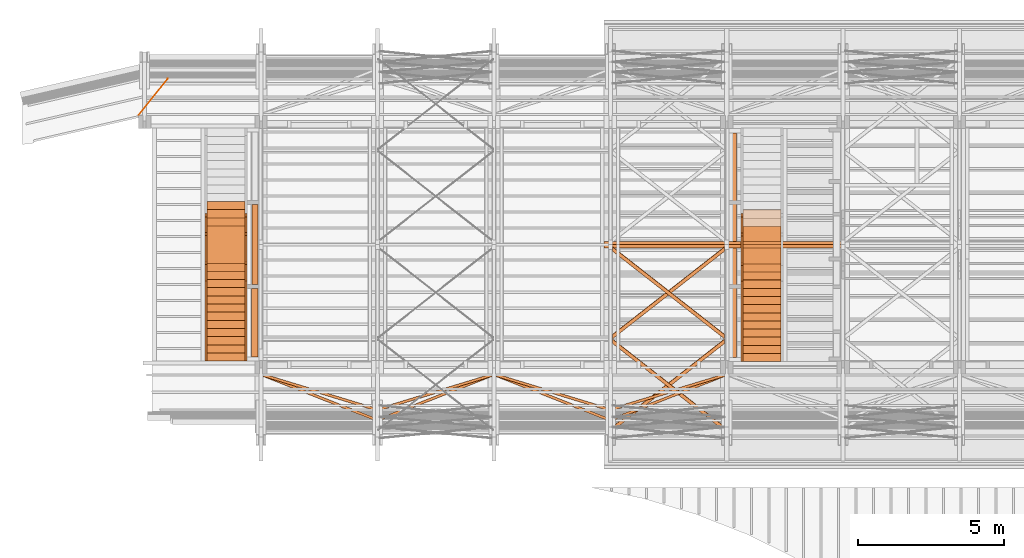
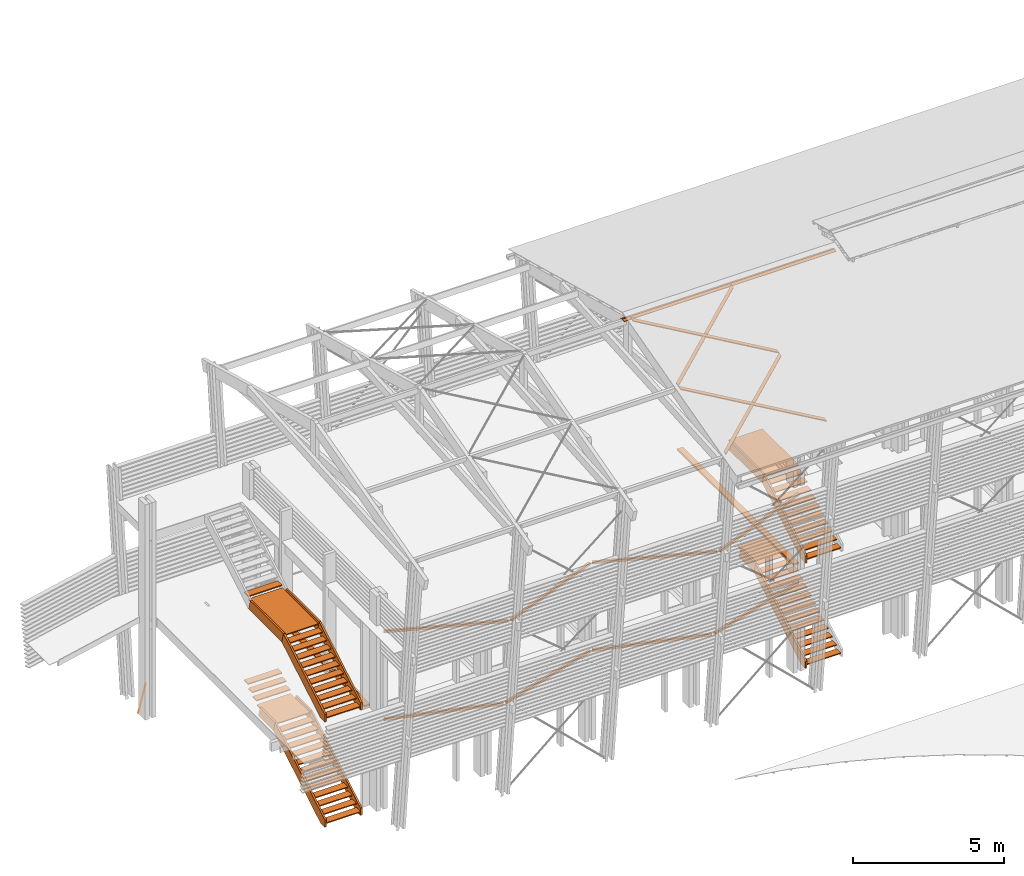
# One storey, part 34 of 48: 82 proxies.
"""IFC2X3 building model written with IfcOpenShell, lengths in metres."""

from ifc_helpers import new_model, entity, si_unit, direction, frame, origin_with_axes, place, context, subcontext, project, spatial, faceted_brep, material, element, save


model = new_model("IFC2X3")

# Units and contexts
model_context = context("Model", 3, precision=1e-06, world=origin_with_axes(), true_north=direction((0.0, 1.0, 0.0)))
body_context = subcontext(model_context, "Body", "Model", "MODEL_VIEW")
ifc_project = project(units=[si_unit("LENGTHUNIT", "METRE"), si_unit("AREAUNIT", "SQUARE_METRE"), si_unit("VOLUMEUNIT", "CUBIC_METRE"), si_unit("PLANEANGLEUNIT", "RADIAN")], contexts=[model_context])

# Site, building, storey
site_placement = place(None, origin_with_axes())
site = spatial("IfcSite", under=ifc_project, at=site_placement, CompositionType="ELEMENT")
building_placement = place(site_placement, origin_with_axes())
building = spatial("IfcBuilding", under=site, at=building_placement, Name="Building 1", CompositionType="ELEMENT")
storey_placement = place(building_placement, origin_with_axes())
storey = spatial("IfcBuildingStorey", under=building, at=storey_placement, Name="Storey 1", CompositionType="ELEMENT", Elevation=0.0)

# Proxies
ifc_material_1 = material(Name="C24")
proxy_1_placement = place(storey_placement, frame((21.2797437, -184.7664881, 0.3), z_axis=(0.0, 0.0, 1.0), x_axis=(1.0, 0.0, 0.0)))
element("IfcBuildingElementProxy", 1, at=proxy_1_placement, inside=storey, material=ifc_material_1, context=body_context, shape_type="GeometricSet", body=[
    entity("IfcCompositeCurve", [entity("IfcCompositeCurveSegment", "DISCONTINUOUS", True, entity("IfcTrimmedCurve", entity("IfcLine", entity("IfcCartesianPoint", [0.0, 0.0, 0.0]), entity("IfcVector", entity("IfcDirection", [0.6252563, 0.7784092, 0.0559788]), 1.0)), [entity("IfcParameterValue", 0.0)], [entity("IfcParameterValue", 1.6077508)], True, "PARAMETER"))], False),
])
ifc_material_2 = material(Name="Moabi")
for number, where, z_axis, x_axis, name in (
    (2, (24.9297437, -191.1096515, 5.57), (0.0, 1.0, 0.0), (-1.0, 0.0, 0.0), "marche"),
    (3, (24.9297437, -192.7896515, 0.31), (0.0, 1.0, 0.0), (-1.0, 0.0, 0.0), "marche"),
):
    element("IfcBuildingElementProxy", number, at=place(storey_placement, frame(where, z_axis=z_axis, x_axis=x_axis)), inside=storey, material=ifc_material_2, Name=name, context=body_context, shape_type="Brep", body=[
        faceted_brep([(0.0, 0.02, 0.14), (0.0, 0.02, -0.14), (0.0, -0.02, -0.14), (0.0, -0.02, 0.14), (1.3, 0.02, -0.14), (1.3, -0.02, -0.14), (1.3, 0.02, 0.14), (1.3, -0.02, 0.14)], [[[0, 1, 2, 3]], [[1, 4, 5, 2]], [[4, 6, 7, 5]], [[6, 0, 3, 7]], [[1, 0, 6, 4]], [[7, 3, 2, 5]]]),
    ])
ifc_material_3 = material(Name="tôle")
proxy_2_placement = place(storey_placement, frame((37.2797441, -189.2646997, 13.3540738), z_axis=(0.0, -0.258819, 0.9659258), x_axis=(1.0, 0.0, 0.0)))
element("IfcBuildingElementProxy", 4, at=proxy_2_placement, inside=storey, material=ifc_material_3, Name="Couverture", context=body_context, shape_type="Brep", body=[
    faceted_brep([(8.1499996, -0.05635, 0.0085), (0.0, -0.05635, 0.0085), (0.0, -0.0609051, -0.0085), (8.1499996, -0.0609051, -0.0085), (0.0, 0.0609051, 0.0085), (0.0, 0.05635, -0.0085), (8.1499996, 0.0609051, 0.0085), (8.1499996, 0.05635, -0.0085)], [[[0, 1, 2, 3]], [[1, 4, 5, 2]], [[4, 6, 7, 5]], [[6, 0, 3, 7]], [[1, 0, 6, 4]], [[7, 3, 2, 5]]]),
])
proxy_3_placement = place(storey_placement, frame((45.4297437, -189.1514399, 13.3540738), z_axis=(0.0, 0.258819, 0.9659258), x_axis=(-1.0, 0.0, 0.0)))
element("IfcBuildingElementProxy", 5, at=proxy_3_placement, inside=storey, material=ifc_material_3, Name="Couverture", context=body_context, shape_type="Brep", body=[
    faceted_brep([(0.0, 0.0609051, 0.0085), (8.1499996, 0.0609051, 0.0085), (8.1499996, 0.05635, -0.0085), (0.0, 0.05635, -0.0085), (8.1499996, -0.05635, 0.0085), (8.1499996, -0.0609051, -0.0085), (0.0, -0.05635, 0.0085), (0.0, -0.0609051, -0.0085)], [[[0, 1, 2, 3]], [[1, 4, 5, 2]], [[4, 6, 7, 5]], [[6, 0, 3, 7]], [[1, 0, 6, 4]], [[7, 3, 2, 5]]]),
])
for number, where, z_axis, x_axis, name in (
    (6, (24.9297437, -193.0696515, 4.415), (0.0, 1.0, 0.0), (-1.0, 0.0, 0.0), "marche"),
    (7, (43.3497437, -192.2496511, 4.91), (0.0, 1.0, 0.0), (-1.0, 0.0, 0.0), "marche"),
    (8, (43.3497437, -191.6896511, 0.97), (0.0, 1.0, 0.0), (-1.0, 0.0, 0.0), "marche"),
):
    element("IfcBuildingElementProxy", number, at=place(storey_placement, frame(where, z_axis=z_axis, x_axis=x_axis)), inside=storey, material=ifc_material_2, Name=name, context=body_context, shape_type="Brep", body=[
        faceted_brep([(0.0, 0.02, 0.14), (0.0, 0.02, -0.14), (0.0, -0.02, -0.14), (0.0, -0.02, 0.14), (1.3, 0.02, -0.14), (1.3, -0.02, -0.14), (1.3, 0.02, 0.14), (1.3, -0.02, 0.14)], [[[0, 1, 2, 3]], [[1, 4, 5, 2]], [[4, 6, 7, 5]], [[6, 0, 3, 7]], [[1, 0, 6, 4]], [[7, 3, 2, 5]]]),
    ])
ifc_material_4 = material(Name="GL28h")
proxy_4_placement = place(storey_placement, frame((42.0147437, -188.8077002, 2.045), z_axis=(0.0, 0.0, 1.0), x_axis=(0.0, -1.0, 0.0)))
element("IfcBuildingElementProxy", 9, at=proxy_4_placement, inside=storey, material=ifc_material_4, Name="limon", context=body_context, shape_type="Brep", body=[
    faceted_brep([(0.0, -0.035, -0.2), (0.1090909, -0.035, 0.2), (0.1090909, 0.035, 0.2), (0.0, 0.035, -0.2), (1.1122539, -0.035, 0.2), (1.1122539, 0.035, 0.2), (1.003163, -0.035, -0.2), (1.003163, 0.035, -0.2)], [[[0, 1, 2, 3]], [[2, 1, 4, 5]], [[1, 0, 6, 4]], [[5, 4, 6, 7]], [[0, 3, 7, 6]], [[3, 2, 5, 7]]]),
])
proxy_5_placement = place(storey_placement, frame((42.0147437, -188.1428517, 5.985), z_axis=(0.0, 0.0, 1.0), x_axis=(0.0, -1.0, 0.0)))
element("IfcBuildingElementProxy", 10, at=proxy_5_placement, inside=storey, material=ifc_material_4, Name="limon", context=body_context, shape_type="Brep", body=[
    faceted_brep([(0.0, -0.035, -0.2), (0.1090909, -0.035, 0.2), (0.1090909, 0.035, 0.2), (0.0, 0.035, -0.2), (2.3171028, -0.035, 0.2), (2.3171028, 0.035, 0.2), (2.2080118, -0.035, -0.2), (2.2080118, 0.035, -0.2)], [[[0, 1, 2, 3]], [[2, 1, 4, 5]], [[1, 0, 6, 4]], [[0, 3, 7, 6]], [[3, 2, 5, 7]], [[5, 4, 6, 7]]]),
])
proxy_6_placement = place(storey_placement, frame((24.2797437, -187.8664881, 6.16), z_axis=(0.0, 1.0, 0.0), x_axis=(0.0, 0.0, 1.0)))
element("IfcBuildingElementProxy", 11, at=proxy_6_placement, inside=storey, material=ifc_material_2, Name="marche", context=body_context, shape_type="Brep", body=[
    faceted_brep([(0.04, 0.65, 0.14), (0.04, 0.65, -0.14), (0.0, 0.65, -0.14), (0.0, 0.65, 0.14), (0.04, -0.65, -0.14), (0.0, -0.65, -0.14), (0.04, -0.65, 0.14), (0.0, -0.65, 0.14)], [[[0, 1, 2, 3]], [[1, 4, 5, 2]], [[4, 6, 7, 5]], [[6, 0, 3, 7]], [[1, 0, 6, 4]], [[7, 3, 2, 5]]]),
])
proxy_7_placement = place(storey_placement, frame((42.0497437, -189.2080698, 6.065), z_axis=(0.0, 0.0, -1.0), x_axis=(1.0, 0.0, 0.0)))
element("IfcBuildingElementProxy", 12, at=proxy_7_placement, inside=storey, material=ifc_material_2, Name="marche", context=body_context, shape_type="Brep", body=[
    faceted_brep([(0.0, -1.2015817, 0.02), (0.0, -1.2015817, -0.02), (1.3, -1.2015817, -0.02), (1.3, -1.2015817, 0.02), (0.0, 1.2015817, -0.02), (1.3, 1.2015817, -0.02), (0.0, 1.2015817, 0.02), (1.3, 1.2015817, 0.02)], [[[0, 1, 2, 3]], [[2, 1, 4, 5]], [[1, 0, 6, 4]], [[0, 3, 7, 6]], [[3, 2, 5, 7]], [[5, 4, 6, 7]]]),
])
proxy_8_placement = place(storey_placement, frame((23.5947437, -193.2369887, 4.3163905), z_axis=(0.0, -0.5076923, 0.8615385), x_axis=(0.0, 0.8615385, 0.5076923)))
element("IfcBuildingElementProxy", 13, at=proxy_8_placement, inside=storey, material=ifc_material_4, Name="limon", context=body_context, shape_type="Brep", body=[
    faceted_brep([(3.3412005, -0.035, 0.2), (3.2321096, -0.035, -0.2), (3.2321096, 0.035, -0.2), (3.3412005, 0.035, 0.2), (0.2480186, -0.035, -0.2), (0.2480186, 0.035, -0.2), (0.1495879, -0.035, 0.2), (0.0, -0.035, -0.0538462), (0.1495879, 0.035, 0.2), (0.0, 0.035, -0.0538462)], [[[0, 1, 2, 3]], [[2, 1, 4, 5]], [[1, 0, 6, 7, 4]], [[0, 3, 8, 6]], [[3, 2, 5, 9, 8]], [[9, 7, 6, 8]], [[7, 9, 5, 4]]]),
])
proxy_9_placement = place(storey_placement, frame((43.3497437, -190.5696511, 5.9), z_axis=(0.0, 1.0, 0.0), x_axis=(-1.0, 0.0, 0.0)))
element("IfcBuildingElementProxy", 14, at=proxy_9_placement, inside=storey, material=ifc_material_2, Name="marche", context=body_context, shape_type="Brep", body=[
    faceted_brep([(0.0, 0.02, 0.14), (0.0, 0.02, -0.14), (0.0, -0.02, -0.14), (0.0, -0.02, 0.14), (1.3, 0.02, -0.14), (1.3, -0.02, -0.14), (1.3, 0.02, 0.14), (1.3, -0.02, 0.14)], [[[0, 1, 2, 3]], [[1, 4, 5, 2]], [[4, 6, 7, 5]], [[6, 0, 3, 7]], [[1, 0, 6, 4]], [[7, 3, 2, 5]]]),
])
proxy_10_placement = place(storey_placement, frame((24.9647437, -188.7877006, 2.045), z_axis=(0.0, 0.0, 1.0), x_axis=(0.0, -1.0, 0.0)))
element("IfcBuildingElementProxy", 15, at=proxy_10_placement, inside=storey, material=ifc_material_4, Name="limon", context=body_context, shape_type="Brep", body=[
    faceted_brep([(0.0, -0.035, -0.2), (0.1090909, -0.035, 0.2), (0.1090909, 0.035, 0.2), (0.0, 0.035, -0.2), (1.1122539, -0.035, 0.2), (1.1122539, 0.035, 0.2), (1.003163, -0.035, -0.2), (1.003163, 0.035, -0.2)], [[[0, 1, 2, 3]], [[2, 1, 4, 5]], [[1, 0, 6, 4]], [[5, 4, 6, 7]], [[0, 3, 7, 6]], [[3, 2, 5, 7]]]),
])
for number, where, z_axis, x_axis, name in (
    (16, (24.9297437, -191.1096515, 1.3), (0.0, 1.0, 0.0), (-1.0, 0.0, 0.0), "marche"),
    (17, (43.3497437, -192.8096511, 0.31), (0.0, 1.0, 0.0), (-1.0, 0.0, 0.0), "marche"),
    (18, (24.9297437, -192.5096515, 0.475), (0.0, 1.0, 0.0), (-1.0, 0.0, 0.0), "marche"),
):
    element("IfcBuildingElementProxy", number, at=place(storey_placement, frame(where, z_axis=z_axis, x_axis=x_axis)), inside=storey, material=ifc_material_2, Name=name, context=body_context, shape_type="Brep", body=[
        faceted_brep([(0.0, 0.02, 0.14), (0.0, 0.02, -0.14), (0.0, -0.02, -0.14), (0.0, -0.02, 0.14), (1.3, 0.02, -0.14), (1.3, -0.02, -0.14), (1.3, 0.02, 0.14), (1.3, -0.02, 0.14)], [[[0, 1, 2, 3]], [[1, 4, 5, 2]], [[4, 6, 7, 5]], [[6, 0, 3, 7]], [[1, 0, 6, 4]], [[7, 3, 2, 5]]]),
    ])
proxy_11_placement = place(storey_placement, frame((37.5219764, -192.402372, 12.5320609), z_axis=(-0.6294478, 0.7505657, 0.2011135), x_axis=(0.7770428, 0.6079999, 0.1629131)))
element("IfcBuildingElementProxy", 19, at=proxy_11_placement, inside=storey, material=ifc_material_4, Name="CVT", context=body_context, shape_type="Brep", body=[
    faceted_brep([(0.0972067, 0.0225, 0.06), (0.0, 0.0225, -0.06), (0.0, -0.0225, -0.06), (0.0972067, -0.0225, 0.06), (4.9675515, -0.0225, -0.06), (5.0647581, -0.0225, 0.06), (5.0647581, 0.0225, 0.06), (4.9675515, 0.0225, -0.06)], [[[0, 1, 2, 3]], [[3, 2, 4, 5]], [[0, 3, 5, 6]], [[5, 4, 7, 6]], [[1, 0, 6, 7]], [[2, 1, 7, 4]]]),
])
for number, where, z_axis, x_axis, name in (
    (20, (43.3497437, -191.4096511, 1.135), (0.0, 1.0, 0.0), (-1.0, 0.0, 0.0), "marche"),
    (21, (24.9297437, -187.8664885, 2.62), (0.0, 1.0, 0.0), (-1.0, 0.0, 0.0), "marche"),
):
    element("IfcBuildingElementProxy", number, at=place(storey_placement, frame(where, z_axis=z_axis, x_axis=x_axis)), inside=storey, material=ifc_material_2, Name=name, context=body_context, shape_type="Brep", body=[
        faceted_brep([(0.0, 0.02, 0.14), (0.0, 0.02, -0.14), (0.0, -0.02, -0.14), (0.0, -0.02, 0.14), (1.3, 0.02, -0.14), (1.3, -0.02, -0.14), (1.3, 0.02, 0.14), (1.3, -0.02, 0.14)], [[[0, 1, 2, 3]], [[1, 4, 5, 2]], [[4, 6, 7, 5]], [[6, 0, 3, 7]], [[1, 0, 6, 4]], [[7, 3, 2, 5]]]),
    ])
proxy_12_placement = place(storey_placement, frame((33.4417403, -193.6854739, 7.544), z_axis=(-0.3666108, 0.9303744, 0.0), x_axis=(-0.9303744, -0.3666108, 0.0)))
element("IfcBuildingElementProxy", 22, at=proxy_12_placement, inside=storey, material=ifc_material_4, Name="CVLP", context=body_context, shape_type="Brep", body=[
    faceted_brep([(4.196153, -0.045, -0.045), (4.196153, -0.045, 0.045), (0.0, -0.045, 0.045), (0.0, -0.045, -0.045), (4.196153, 0.045, 0.045), (0.0, 0.045, 0.045), (4.196153, 0.045, -0.045), (0.0, 0.045, -0.045)], [[[0, 1, 2, 3]], [[1, 4, 5, 2]], [[4, 6, 7, 5]], [[6, 0, 3, 7]], [[1, 0, 6, 4]], [[7, 3, 2, 5]]]),
])
for number, where, z_axis, x_axis, name in (
    (23, (43.3497437, -193.0896511, 4.415), (0.0, 1.0, 0.0), (-1.0, 0.0, 0.0), "marche"),
    (24, (43.3497437, -192.5296511, 4.745), (0.0, 1.0, 0.0), (-1.0, 0.0, 0.0), "marche"),
    (25, (43.3497437, -191.4096511, 5.405), (0.0, 1.0, 0.0), (-1.0, 0.0, 0.0), "marche"),
    (26, (43.3497437, -190.8496511, 1.465), (0.0, 1.0, 0.0), (-1.0, 0.0, 0.0), "marche"),
    (27, (43.3497437, -192.5296511, 0.475), (0.0, 1.0, 0.0), (-1.0, 0.0, 0.0), "marche"),
):
    element("IfcBuildingElementProxy", number, at=place(storey_placement, frame(where, z_axis=z_axis, x_axis=x_axis)), inside=storey, material=ifc_material_2, Name=name, context=body_context, shape_type="Brep", body=[
        faceted_brep([(0.0, 0.02, 0.14), (0.0, 0.02, -0.14), (0.0, -0.02, -0.14), (0.0, -0.02, 0.14), (1.3, 0.02, -0.14), (1.3, -0.02, -0.14), (1.3, 0.02, 0.14), (1.3, -0.02, 0.14)], [[[0, 1, 2, 3]], [[1, 4, 5, 2]], [[4, 6, 7, 5]], [[6, 0, 3, 7]], [[1, 0, 6, 4]], [[7, 3, 2, 5]]]),
    ])
proxy_13_placement = place(storey_placement, frame((42.0147437, -193.2569883, 0.0463905), z_axis=(0.0, -0.5076923, 0.8615385), x_axis=(0.0, 0.8615385, 0.5076923)))
element("IfcBuildingElementProxy", 28, at=proxy_13_placement, inside=storey, material=ifc_material_4, Name="limon", context=body_context, shape_type="Brep", body=[
    faceted_brep([(3.9912005, 0.035, 0.2), (3.9912005, -0.035, 0.2), (3.8821096, -0.035, -0.2), (3.8821096, 0.035, -0.2), (0.1495879, -0.035, 0.2), (0.0, -0.035, -0.0538462), (0.2480186, -0.035, -0.2), (0.1495879, 0.035, 0.2), (0.2480186, 0.035, -0.2), (0.0, 0.035, -0.0538462)], [[[0, 1, 2, 3]], [[2, 1, 4, 5, 6]], [[1, 0, 7, 4]], [[0, 3, 8, 9, 7]], [[3, 2, 6, 8]], [[9, 5, 4, 7]], [[5, 9, 8, 6]]]),
])
for number, where, z_axis, x_axis, name in (
    (29, (43.3497437, -190.2896511, 1.795), (0.0, 1.0, 0.0), (-1.0, 0.0, 0.0), "marche"),
    (30, (43.3497437, -190.5696511, 1.63), (0.0, 1.0, 0.0), (-1.0, 0.0, 0.0), "marche"),
    (31, (43.3497437, -190.0096511, 1.96), (0.0, 1.0, 0.0), (-1.0, 0.0, 0.0), "marche"),
    (32, (43.3497437, -191.9696511, 5.075), (0.0, 1.0, 0.0), (-1.0, 0.0, 0.0), "marche"),
):
    element("IfcBuildingElementProxy", number, at=place(storey_placement, frame(where, z_axis=z_axis, x_axis=x_axis)), inside=storey, material=ifc_material_2, Name=name, context=body_context, shape_type="Brep", body=[
        faceted_brep([(0.0, 0.02, 0.14), (0.0, 0.02, -0.14), (0.0, -0.02, -0.14), (0.0, -0.02, 0.14), (1.3, 0.02, -0.14), (1.3, -0.02, -0.14), (1.3, 0.02, 0.14), (1.3, -0.02, 0.14)], [[[0, 1, 2, 3]], [[1, 4, 5, 2]], [[4, 6, 7, 5]], [[6, 0, 3, 7]], [[1, 0, 6, 4]], [[7, 3, 2, 5]]]),
    ])
proxy_14_placement = place(storey_placement, frame((42.0147437, -193.2569883, 4.3163905), z_axis=(0.0, -0.5076923, 0.8615385), x_axis=(0.0, 0.8615385, 0.5076923)))
element("IfcBuildingElementProxy", 33, at=proxy_14_placement, inside=storey, material=ifc_material_4, Name="limon", context=body_context, shape_type="Brep", body=[
    faceted_brep([(3.3412005, -0.035, 0.2), (3.2321096, -0.035, -0.2), (3.2321096, 0.035, -0.2), (3.3412005, 0.035, 0.2), (0.2480186, -0.035, -0.2), (0.2480186, 0.035, -0.2), (0.1495879, -0.035, 0.2), (0.0, -0.035, -0.0538462), (0.1495879, 0.035, 0.2), (0.0, 0.035, -0.0538462)], [[[0, 1, 2, 3]], [[2, 1, 4, 5]], [[1, 0, 6, 7, 4]], [[0, 3, 8, 6]], [[3, 2, 5, 9, 8]], [[9, 7, 6, 8]], [[7, 9, 5, 4]]]),
])
for number, where, z_axis, x_axis, name in (
    (34, (43.3497437, -191.6896511, 5.24), (0.0, 1.0, 0.0), (-1.0, 0.0, 0.0), "marche"),
    (35, (43.3497437, -192.8096511, 4.58), (0.0, 1.0, 0.0), (-1.0, 0.0, 0.0), "marche"),
    (36, (43.3497437, -190.8496511, 5.735), (0.0, 1.0, 0.0), (-1.0, 0.0, 0.0), "marche"),
    (37, (43.3497437, -191.1296511, 1.3), (0.0, 1.0, 0.0), (-1.0, 0.0, 0.0), "marche"),
    (38, (43.3497437, -191.1296511, 5.57), (0.0, 1.0, 0.0), (-1.0, 0.0, 0.0), "marche"),
    (39, (43.3497437, -192.2496511, 0.64), (0.0, 1.0, 0.0), (-1.0, 0.0, 0.0), "marche"),
):
    element("IfcBuildingElementProxy", number, at=place(storey_placement, frame(where, z_axis=z_axis, x_axis=x_axis)), inside=storey, material=ifc_material_2, Name=name, context=body_context, shape_type="Brep", body=[
        faceted_brep([(0.0, 0.02, 0.14), (0.0, 0.02, -0.14), (0.0, -0.02, -0.14), (0.0, -0.02, 0.14), (1.3, 0.02, -0.14), (1.3, -0.02, -0.14), (1.3, 0.02, 0.14), (1.3, -0.02, 0.14)], [[[0, 1, 2, 3]], [[1, 4, 5, 2]], [[4, 6, 7, 5]], [[6, 0, 3, 7]], [[1, 0, 6, 4]], [[7, 3, 2, 5]]]),
    ])
proxy_15_placement = place(storey_placement, frame((41.7097437, -185.3664877, 4.25), z_axis=(1.0, 0.0, 0.0), x_axis=(0.0, -1.0, 0.0)))
element("IfcBuildingElementProxy", 40, at=proxy_15_placement, inside=storey, material=ifc_material_4, Name="lisse", context=body_context, shape_type="Brep", body=[
    faceted_brep([(7.7231634, -0.035, 0.11), (7.7231634, 0.035, 0.11), (0.0, 0.035, 0.11), (0.0, -0.035, 0.11), (7.7231634, 0.035, -0.11), (0.0, 0.035, -0.11), (7.7231634, -0.035, -0.11), (0.0, -0.035, -0.11)], [[[0, 1, 2, 3]], [[1, 4, 5, 2]], [[4, 6, 7, 5]], [[6, 0, 3, 7]], [[1, 0, 6, 4]], [[7, 3, 2, 5]]]),
])
proxy_16_placement = place(storey_placement, frame((42.0497437, -189.2280696, 2.125), z_axis=(0.0, 0.0, -1.0), x_axis=(1.0, 0.0, 0.0)))
element("IfcBuildingElementProxy", 41, at=proxy_16_placement, inside=storey, material=ifc_material_2, Name="marche", context=body_context, shape_type="Brep", body=[
    faceted_brep([(0.0, -0.6415815, -0.02), (1.3, -0.6415815, -0.02), (1.3, -0.6415815, 0.02), (0.0, -0.6415815, 0.02), (1.3, 0.6415815, -0.02), (1.3, 0.6415815, 0.02), (0.0, 0.6415815, -0.02), (0.0, 0.6415815, 0.02)], [[[0, 1, 2, 3]], [[1, 4, 5, 2]], [[4, 6, 7, 5]], [[6, 0, 3, 7]], [[1, 0, 6, 4]], [[7, 3, 2, 5]]]),
])
for number, where, z_axis, x_axis, name in (
    (42, (43.3497437, -191.9696511, 0.805), (0.0, 1.0, 0.0), (-1.0, 0.0, 0.0), "marche"),
    (43, (43.3497437, -193.0896511, 0.145), (0.0, 1.0, 0.0), (-1.0, 0.0, 0.0), "marche"),
):
    element("IfcBuildingElementProxy", number, at=place(storey_placement, frame(where, z_axis=z_axis, x_axis=x_axis)), inside=storey, material=ifc_material_2, Name=name, context=body_context, shape_type="Brep", body=[
        faceted_brep([(0.0, 0.02, 0.14), (0.0, 0.02, -0.14), (0.0, -0.02, -0.14), (0.0, -0.02, 0.14), (1.3, 0.02, -0.14), (1.3, -0.02, -0.14), (1.3, 0.02, 0.14), (1.3, -0.02, 0.14)], [[[0, 1, 2, 3]], [[1, 4, 5, 2]], [[4, 6, 7, 5]], [[6, 0, 3, 7]], [[1, 0, 6, 4]], [[7, 3, 2, 5]]]),
    ])
proxy_17_placement = place(storey_placement, frame((41.4575102, -195.5718121, 11.682812), z_axis=(0.6294478, 0.7505657, 0.2011135), x_axis=(-0.7770428, 0.6079999, 0.1629131)))
element("IfcBuildingElementProxy", 44, at=proxy_17_placement, inside=storey, material=ifc_material_4, Name="CVT", context=body_context, shape_type="Brep", body=[
    faceted_brep([(0.0, -0.0225, -0.06), (0.0972067, -0.0225, 0.06), (0.0972067, 0.0225, 0.06), (0.0, 0.0225, -0.06), (5.0647581, 0.0225, 0.06), (4.9675515, 0.0225, -0.06), (5.0647581, -0.0225, 0.06), (4.9675515, -0.0225, -0.06)], [[[0, 1, 2, 3]], [[3, 2, 4, 5]], [[2, 1, 6, 4]], [[5, 4, 6, 7]], [[1, 0, 7, 6]], [[0, 3, 5, 7]]]),
])
proxy_18_placement = place(storey_placement, frame((25.5377471, -193.6854739, 7.544), z_axis=(0.3666108, 0.9303744, 0.0), x_axis=(0.9303744, -0.3666108, 0.0)))
element("IfcBuildingElementProxy", 45, at=proxy_18_placement, inside=storey, material=ifc_material_4, Name="CVLP", context=body_context, shape_type="Brep", body=[
    faceted_brep([(4.196153, -0.045, -0.045), (4.196153, -0.045, 0.045), (0.0, -0.045, 0.045), (0.0, -0.045, -0.045), (4.196153, 0.045, 0.045), (0.0, 0.045, 0.045), (4.196153, 0.045, -0.045), (0.0, 0.045, -0.045)], [[[0, 1, 2, 3]], [[1, 4, 5, 2]], [[4, 6, 7, 5]], [[6, 0, 3, 7]], [[1, 0, 6, 4]], [[7, 3, 2, 5]]]),
])
proxy_19_placement = place(storey_placement, frame((41.4372017, -193.6870595, 3.984), z_axis=(-0.2909669, 0.9567331, 0.0), x_axis=(-0.9567331, -0.2909669, 0.0)))
element("IfcBuildingElementProxy", 46, at=proxy_19_placement, inside=storey, material=ifc_material_4, Name="CVLP", context=body_context, shape_type="Brep", body=[
    faceted_brep([(4.071058, -0.045, -0.045), (4.071058, -0.045, 0.045), (0.0, -0.045, 0.045), (0.0, -0.045, -0.045), (4.071058, 0.045, 0.045), (0.0, 0.045, 0.045), (4.071058, 0.045, -0.045), (0.0, 0.045, -0.045)], [[[0, 1, 2, 3]], [[1, 4, 5, 2]], [[4, 6, 7, 5]], [[6, 0, 3, 7]], [[1, 0, 6, 4]], [[7, 3, 2, 5]]]),
])
proxy_20_placement = place(storey_placement, frame((37.5219768, -195.5718121, 11.682812), z_axis=(-0.6294478, 0.7505657, 0.2011135), x_axis=(0.7770428, 0.6079999, 0.1629131)))
element("IfcBuildingElementProxy", 47, at=proxy_20_placement, inside=storey, material=ifc_material_4, Name="CVT", context=body_context, shape_type="Brep", body=[
    faceted_brep([(0.0972067, 0.0225, 0.06), (0.0, 0.0225, -0.06), (0.0, -0.0225, -0.06), (0.0972067, -0.0225, 0.06), (4.9675515, -0.0225, -0.06), (5.0647581, -0.0225, 0.06), (5.0647581, 0.0225, 0.06), (4.9675515, 0.0225, -0.06)], [[[0, 1, 2, 3]], [[3, 2, 4, 5]], [[0, 3, 5, 6]], [[5, 4, 7, 6]], [[1, 0, 6, 7]], [[2, 1, 7, 4]]]),
])
proxy_21_placement = place(storey_placement, frame((41.4575106, -192.402372, 12.5320609), z_axis=(0.6294478, 0.7505657, 0.2011135), x_axis=(-0.7770428, 0.6079999, 0.1629131)))
element("IfcBuildingElementProxy", 48, at=proxy_21_placement, inside=storey, material=ifc_material_4, Name="CVT", context=body_context, shape_type="Brep", body=[
    faceted_brep([(0.0, -0.0225, -0.06), (0.0972067, -0.0225, 0.06), (0.0972067, 0.0225, 0.06), (0.0, 0.0225, -0.06), (5.0647581, 0.0225, 0.06), (4.9675515, 0.0225, -0.06), (5.0647581, -0.0225, 0.06), (4.9675515, -0.0225, -0.06)], [[[0, 1, 2, 3]], [[3, 2, 4, 5]], [[2, 1, 6, 4]], [[5, 4, 6, 7]], [[1, 0, 7, 6]], [[0, 3, 5, 7]]]),
])
proxy_22_placement = place(storey_placement, frame((24.9297437, -191.6696515, 0.97), z_axis=(0.0, 1.0, 0.0), x_axis=(-1.0, 0.0, 0.0)))
element("IfcBuildingElementProxy", 49, at=proxy_22_placement, inside=storey, material=ifc_material_2, Name="marche", context=body_context, shape_type="Brep", body=[
    faceted_brep([(0.0, 0.02, 0.14), (0.0, 0.02, -0.14), (0.0, -0.02, -0.14), (0.0, -0.02, 0.14), (1.3, 0.02, -0.14), (1.3, -0.02, -0.14), (1.3, 0.02, 0.14), (1.3, -0.02, 0.14)], [[[0, 1, 2, 3]], [[1, 4, 5, 2]], [[4, 6, 7, 5]], [[6, 0, 3, 7]], [[1, 0, 6, 4]], [[7, 3, 2, 5]]]),
])
proxy_23_placement = place(storey_placement, frame((23.5947437, -188.7877006, 2.045), z_axis=(0.0, 0.0, 1.0), x_axis=(0.0, -1.0, 0.0)))
element("IfcBuildingElementProxy", 50, at=proxy_23_placement, inside=storey, material=ifc_material_4, Name="limon", context=body_context, shape_type="Brep", body=[
    faceted_brep([(0.0, -0.035, -0.2), (0.1090909, -0.035, 0.2), (0.1090909, 0.035, 0.2), (0.0, 0.035, -0.2), (1.1122539, -0.035, 0.2), (1.1122539, 0.035, 0.2), (1.003163, -0.035, -0.2), (1.003163, 0.035, -0.2)], [[[0, 1, 2, 3]], [[2, 1, 4, 5]], [[1, 0, 6, 4]], [[5, 4, 6, 7]], [[0, 3, 7, 6]], [[3, 2, 5, 7]]]),
])
proxy_24_placement = place(storey_placement, frame((25.2807437, -187.8380694, 4.25), z_axis=(1.0, 0.0, 0.0), x_axis=(0.0, -1.0, 0.0)))
element("IfcBuildingElementProxy", 51, at=proxy_24_placement, inside=storey, material=ifc_material_4, Name="lisse", context=body_context, shape_type="Brep", body=[
    faceted_brep([(2.74, 0.035, -0.11), (2.74, 0.035, 0.11), (2.74, -0.035, 0.11), (2.74, -0.035, -0.11), (0.0, 0.035, 0.11), (0.0, -0.035, 0.11), (0.0, -0.035, -0.11), (0.0, 0.035, -0.11)], [[[0, 1, 2, 3]], [[2, 1, 4, 5]], [[3, 2, 5, 6]], [[1, 0, 7, 4]], [[0, 3, 6, 7]], [[4, 7, 6, 5]]]),
])
proxy_25_placement = place(storey_placement, frame((33.4372017, -193.6870595, 3.984), z_axis=(-0.2909669, 0.9567331, 0.0), x_axis=(-0.9567331, -0.2909669, 0.0)))
element("IfcBuildingElementProxy", 52, at=proxy_25_placement, inside=storey, material=ifc_material_4, Name="CVLP", context=body_context, shape_type="Brep", body=[
    faceted_brep([(4.071058, -0.045, -0.045), (4.071058, -0.045, 0.045), (0.0, -0.045, 0.045), (0.0, -0.045, -0.045), (4.071058, 0.045, 0.045), (0.0, 0.045, 0.045), (4.071058, 0.045, -0.045), (0.0, 0.045, -0.045)], [[[0, 1, 2, 3]], [[1, 4, 5, 2]], [[4, 6, 7, 5]], [[6, 0, 3, 7]], [[1, 0, 6, 4]], [[7, 3, 2, 5]]]),
])
proxy_26_placement = place(storey_placement, frame((25.2697437, -190.7180698, 4.25), z_axis=(1.0, 0.0, 0.0), x_axis=(0.0, -1.0, 0.0)))
element("IfcBuildingElementProxy", 53, at=proxy_26_placement, inside=storey, material=ifc_material_4, Name="lisse", context=body_context, shape_type="Brep", body=[
    faceted_brep([(2.3515813, 0.035, 0.11), (2.3515813, -0.035, 0.11), (2.3515817, -0.035, -0.11), (2.3515817, 0.035, -0.11), (0.0, 0.035, -0.11), (0.0, 0.035, 0.11), (0.0, -0.035, -0.11), (0.0, -0.035, 0.11)], [[[0, 1, 2, 3]], [[4, 5, 0, 3]], [[6, 4, 3, 2]], [[7, 6, 2, 1]], [[5, 7, 1, 0]], [[5, 4, 6, 7]]]),
])
proxy_27_placement = place(storey_placement, frame((23.5947437, -193.2369887, 0.0463905), z_axis=(0.0, -0.5076923, 0.8615385), x_axis=(0.0, 0.8615385, 0.5076923)))
element("IfcBuildingElementProxy", 54, at=proxy_27_placement, inside=storey, material=ifc_material_4, Name="limon", context=body_context, shape_type="Brep", body=[
    faceted_brep([(3.9912005, 0.035, 0.2), (3.9912005, -0.035, 0.2), (3.8821096, -0.035, -0.2), (3.8821096, 0.035, -0.2), (0.1495879, -0.035, 0.2), (0.0, -0.035, -0.0538462), (0.2480186, -0.035, -0.2), (0.1495879, 0.035, 0.2), (0.2480186, 0.035, -0.2), (0.0, 0.035, -0.0538462)], [[[0, 1, 2, 3]], [[2, 1, 4, 5, 6]], [[1, 0, 7, 4]], [[0, 3, 8, 9, 7]], [[3, 2, 6, 8]], [[9, 5, 4, 7]], [[5, 9, 8, 6]]]),
])
proxy_28_placement = place(storey_placement, frame((23.6297437, -189.20807, 2.125), z_axis=(0.0, 0.0, -1.0), x_axis=(1.0, 0.0, 0.0)))
element("IfcBuildingElementProxy", 55, at=proxy_28_placement, inside=storey, material=ifc_material_2, Name="marche", context=body_context, shape_type="Brep", body=[
    faceted_brep([(0.0, -0.6415815, -0.02), (1.3, -0.6415815, -0.02), (1.3, -0.6415815, 0.02), (0.0, -0.6415815, 0.02), (1.3, 0.6415815, -0.02), (1.3, 0.6415815, 0.02), (0.0, 0.6415815, -0.02), (0.0, 0.6415815, 0.02)], [[[0, 1, 2, 3]], [[1, 4, 5, 2]], [[4, 6, 7, 5]], [[6, 0, 3, 7]], [[1, 0, 6, 4]], [[7, 3, 2, 5]]]),
])
for number, where, z_axis, x_axis, name in (
    (56, (24.9297437, -189.9896515, 1.96), (0.0, 1.0, 0.0), (-1.0, 0.0, 0.0), "marche"),
    (57, (24.9297437, -191.9496515, 0.805), (0.0, 1.0, 0.0), (-1.0, 0.0, 0.0), "marche"),
    (58, (24.9297437, -192.2296515, 0.64), (0.0, 1.0, 0.0), (-1.0, 0.0, 0.0), "marche"),
    (59, (24.9297437, -188.4264885, 2.29), (0.0, 1.0, 0.0), (-1.0, 0.0, 0.0), "marche"),
    (60, (24.9297437, -188.1464885, 2.455), (0.0, 1.0, 0.0), (-1.0, 0.0, 0.0), "marche"),
    (61, (24.9297437, -190.5496515, 1.63), (0.0, 1.0, 0.0), (-1.0, 0.0, 0.0), "marche"),
    (62, (24.9297437, -190.2696515, 1.795), (0.0, 1.0, 0.0), (-1.0, 0.0, 0.0), "marche"),
    (63, (24.9297437, -192.2296515, 4.91), (0.0, 1.0, 0.0), (-1.0, 0.0, 0.0), "marche"),
    (64, (24.9297437, -193.0696515, 0.145), (0.0, 1.0, 0.0), (-1.0, 0.0, 0.0), "marche"),
):
    element("IfcBuildingElementProxy", number, at=place(storey_placement, frame(where, z_axis=z_axis, x_axis=x_axis)), inside=storey, material=ifc_material_2, Name=name, context=body_context, shape_type="Brep", body=[
        faceted_brep([(0.0, 0.02, 0.14), (0.0, 0.02, -0.14), (0.0, -0.02, -0.14), (0.0, -0.02, 0.14), (1.3, 0.02, -0.14), (1.3, -0.02, -0.14), (1.3, 0.02, 0.14), (1.3, -0.02, 0.14)], [[[0, 1, 2, 3]], [[1, 4, 5, 2]], [[4, 6, 7, 5]], [[6, 0, 3, 7]], [[1, 0, 6, 4]], [[7, 3, 2, 5]]]),
    ])
proxy_29_placement = place(storey_placement, frame((24.9647437, -188.1428517, 5.985), z_axis=(0.0, 0.0, 1.0), x_axis=(0.0, -1.0, 0.0)))
element("IfcBuildingElementProxy", 65, at=proxy_29_placement, inside=storey, material=ifc_material_4, Name="limon", context=body_context, shape_type="Brep", body=[
    faceted_brep([(0.0, -0.035, -0.2), (0.1090909, -0.035, 0.2), (0.1090909, 0.035, 0.2), (0.0, 0.035, -0.2), (2.3171028, -0.035, 0.2), (2.3171028, 0.035, 0.2), (2.2080118, -0.035, -0.2), (2.2080118, 0.035, -0.2)], [[[0, 1, 2, 3]], [[2, 1, 4, 5]], [[1, 0, 6, 4]], [[0, 3, 7, 6]], [[3, 2, 5, 7]], [[5, 4, 6, 7]]]),
])
proxy_30_placement = place(storey_placement, frame((24.9647437, -193.2369887, 0.0463905), z_axis=(0.0, -0.5076923, 0.8615385), x_axis=(0.0, 0.8615385, 0.5076923)))
element("IfcBuildingElementProxy", 66, at=proxy_30_placement, inside=storey, material=ifc_material_4, Name="limon", context=body_context, shape_type="Brep", body=[
    faceted_brep([(3.9912005, 0.035, 0.2), (3.9912005, -0.035, 0.2), (3.8821096, -0.035, -0.2), (3.8821096, 0.035, -0.2), (0.1495879, -0.035, 0.2), (0.0, -0.035, -0.0538462), (0.2480186, -0.035, -0.2), (0.1495879, 0.035, 0.2), (0.2480186, 0.035, -0.2), (0.0, 0.035, -0.0538462)], [[[0, 1, 2, 3]], [[2, 1, 4, 5, 6]], [[1, 0, 7, 4]], [[0, 3, 8, 9, 7]], [[3, 2, 6, 8]], [[9, 5, 4, 7]], [[5, 9, 8, 6]]]),
])
for number, where, z_axis, x_axis, name in (
    (67, (24.9297437, -190.8296515, 1.465), (0.0, 1.0, 0.0), (-1.0, 0.0, 0.0), "marche"),
    (68, (24.9297437, -191.3896515, 1.135), (0.0, 1.0, 0.0), (-1.0, 0.0, 0.0), "marche"),
):
    element("IfcBuildingElementProxy", number, at=place(storey_placement, frame(where, z_axis=z_axis, x_axis=x_axis)), inside=storey, material=ifc_material_2, Name=name, context=body_context, shape_type="Brep", body=[
        faceted_brep([(0.0, 0.02, 0.14), (0.0, 0.02, -0.14), (0.0, -0.02, -0.14), (0.0, -0.02, 0.14), (1.3, 0.02, -0.14), (1.3, -0.02, -0.14), (1.3, 0.02, 0.14), (1.3, -0.02, 0.14)], [[[0, 1, 2, 3]], [[1, 4, 5, 2]], [[4, 6, 7, 5]], [[6, 0, 3, 7]], [[1, 0, 6, 4]], [[7, 3, 2, 5]]]),
    ])
proxy_31_placement = place(storey_placement, frame((23.6297437, -189.2080698, 6.065), z_axis=(0.0, 0.0, -1.0), x_axis=(1.0, 0.0, 0.0)))
element("IfcBuildingElementProxy", 69, at=proxy_31_placement, inside=storey, material=ifc_material_2, Name="marche", context=body_context, shape_type="Brep", body=[
    faceted_brep([(0.0, -1.2015817, 0.02), (0.0, -1.2015817, -0.02), (1.3, -1.2015817, -0.02), (1.3, -1.2015817, 0.02), (0.0, 1.2015817, -0.02), (1.3, 1.2015817, -0.02), (0.0, 1.2015817, 0.02), (1.3, 1.2015817, 0.02)], [[[0, 1, 2, 3]], [[2, 1, 4, 5]], [[1, 0, 6, 4]], [[0, 3, 7, 6]], [[3, 2, 5, 7]], [[5, 4, 6, 7]]]),
])
proxy_32_placement = place(storey_placement, frame((24.9297437, -192.7896515, 4.58), z_axis=(0.0, 1.0, 0.0), x_axis=(-1.0, 0.0, 0.0)))
element("IfcBuildingElementProxy", 70, at=proxy_32_placement, inside=storey, material=ifc_material_2, Name="marche", context=body_context, shape_type="Brep", body=[
    faceted_brep([(0.0, 0.02, 0.14), (0.0, 0.02, -0.14), (0.0, -0.02, -0.14), (0.0, -0.02, 0.14), (1.3, 0.02, -0.14), (1.3, -0.02, -0.14), (1.3, 0.02, 0.14), (1.3, -0.02, 0.14)], [[[0, 1, 2, 3]], [[1, 4, 5, 2]], [[4, 6, 7, 5]], [[6, 0, 3, 7]], [[1, 0, 6, 4]], [[7, 3, 2, 5]]]),
])
proxy_33_placement = place(storey_placement, frame((24.9647437, -193.2369887, 4.3163905), z_axis=(0.0, -0.5076923, 0.8615385), x_axis=(0.0, 0.8615385, 0.5076923)))
element("IfcBuildingElementProxy", 71, at=proxy_33_placement, inside=storey, material=ifc_material_4, Name="limon", context=body_context, shape_type="Brep", body=[
    faceted_brep([(3.3412005, -0.035, 0.2), (3.2321096, -0.035, -0.2), (3.2321096, 0.035, -0.2), (3.3412005, 0.035, 0.2), (0.2480186, -0.035, -0.2), (0.2480186, 0.035, -0.2), (0.1495879, -0.035, 0.2), (0.0, -0.035, -0.0538462), (0.1495879, 0.035, 0.2), (0.0, 0.035, -0.0538462)], [[[0, 1, 2, 3]], [[2, 1, 4, 5]], [[1, 0, 6, 7, 4]], [[0, 3, 8, 6]], [[3, 2, 5, 9, 8]], [[9, 7, 6, 8]], [[7, 9, 5, 4]]]),
])
for number, where, z_axis, x_axis, name in (
    (72, (24.9297437, -191.6696515, 5.24), (0.0, 1.0, 0.0), (-1.0, 0.0, 0.0), "marche"),
    (73, (24.9297437, -191.3896515, 5.405), (0.0, 1.0, 0.0), (-1.0, 0.0, 0.0), "marche"),
    (74, (24.9297437, -191.9496515, 5.075), (0.0, 1.0, 0.0), (-1.0, 0.0, 0.0), "marche"),
    (75, (24.9297437, -192.5096515, 4.745), (0.0, 1.0, 0.0), (-1.0, 0.0, 0.0), "marche"),
    (76, (24.9297437, -190.5496515, 5.9), (0.0, 1.0, 0.0), (-1.0, 0.0, 0.0), "marche"),
    (77, (24.9297437, -190.8296515, 5.735), (0.0, 1.0, 0.0), (-1.0, 0.0, 0.0), "marche"),
):
    element("IfcBuildingElementProxy", number, at=place(storey_placement, frame(where, z_axis=z_axis, x_axis=x_axis)), inside=storey, material=ifc_material_2, Name=name, context=body_context, shape_type="Brep", body=[
        faceted_brep([(0.0, 0.02, 0.14), (0.0, 0.02, -0.14), (0.0, -0.02, -0.14), (0.0, -0.02, 0.14), (1.3, 0.02, -0.14), (1.3, -0.02, -0.14), (1.3, 0.02, 0.14), (1.3, -0.02, 0.14)], [[[0, 1, 2, 3]], [[1, 4, 5, 2]], [[4, 6, 7, 5]], [[6, 0, 3, 7]], [[1, 0, 6, 4]], [[7, 3, 2, 5]]]),
    ])
proxy_34_placement = place(storey_placement, frame((23.5947437, -188.1428517, 5.985), z_axis=(0.0, 0.0, 1.0), x_axis=(0.0, -1.0, 0.0)))
element("IfcBuildingElementProxy", 78, at=proxy_34_placement, inside=storey, material=ifc_material_4, Name="limon", context=body_context, shape_type="Brep", body=[
    faceted_brep([(0.0, -0.035, -0.2), (0.1090909, -0.035, 0.2), (0.1090909, 0.035, 0.2), (0.0, 0.035, -0.2), (2.3171028, -0.035, 0.2), (2.3171028, 0.035, 0.2), (2.2080118, -0.035, -0.2), (2.2080118, 0.035, -0.2)], [[[0, 1, 2, 3]], [[2, 1, 4, 5]], [[1, 0, 6, 4]], [[0, 3, 7, 6]], [[3, 2, 5, 7]], [[5, 4, 6, 7]]]),
])
proxy_35_placement = place(storey_placement, frame((25.5422857, -193.6870595, 3.984), z_axis=(0.2909669, 0.9567331, 0.0), x_axis=(0.9567331, -0.2909669, 0.0)))
element("IfcBuildingElementProxy", 79, at=proxy_35_placement, inside=storey, material=ifc_material_4, Name="CVLP", context=body_context, shape_type="Brep", body=[
    faceted_brep([(4.071058, -0.045, -0.045), (4.071058, -0.045, 0.045), (0.0, -0.045, 0.045), (0.0, -0.045, -0.045), (4.071058, 0.045, 0.045), (0.0, 0.045, 0.045), (4.071058, 0.045, -0.045), (0.0, 0.045, -0.045)], [[[0, 1, 2, 3]], [[1, 4, 5, 2]], [[4, 6, 7, 5]], [[6, 0, 3, 7]], [[1, 0, 6, 4]], [[7, 3, 2, 5]]]),
])
proxy_36_placement = place(storey_placement, frame((33.5377463, -193.6854739, 7.544), z_axis=(0.3666108, 0.9303744, 0.0), x_axis=(0.9303744, -0.3666108, 0.0)))
element("IfcBuildingElementProxy", 80, at=proxy_36_placement, inside=storey, material=ifc_material_4, Name="CVLP", context=body_context, shape_type="Brep", body=[
    faceted_brep([(4.196153, -0.045, -0.045), (4.196153, -0.045, 0.045), (0.0, -0.045, 0.045), (0.0, -0.045, -0.045), (4.196153, 0.045, 0.045), (0.0, 0.045, 0.045), (4.196153, 0.045, -0.045), (0.0, 0.045, -0.045)], [[[0, 1, 2, 3]], [[1, 4, 5, 2]], [[4, 6, 7, 5]], [[6, 0, 3, 7]], [[1, 0, 6, 4]], [[7, 3, 2, 5]]]),
])
proxy_37_placement = place(storey_placement, frame((33.5422857, -193.6870595, 3.984), z_axis=(0.2909669, 0.9567331, 0.0), x_axis=(0.9567331, -0.2909669, 0.0)))
element("IfcBuildingElementProxy", 81, at=proxy_37_placement, inside=storey, material=ifc_material_4, Name="CVLP", context=body_context, shape_type="Brep", body=[
    faceted_brep([(4.071058, -0.045, -0.045), (4.071058, -0.045, 0.045), (0.0, -0.045, 0.045), (0.0, -0.045, -0.045), (4.071058, 0.045, 0.045), (0.0, 0.045, 0.045), (4.071058, 0.045, -0.045), (0.0, 0.045, -0.045)], [[[0, 1, 2, 3]], [[1, 4, 5, 2]], [[4, 6, 7, 5]], [[6, 0, 3, 7]], [[1, 0, 6, 4]], [[7, 3, 2, 5]]]),
])
proxy_38_placement = place(storey_placement, frame((41.4417411, -193.6854739, 7.544), z_axis=(-0.3666108, 0.9303744, 0.0), x_axis=(-0.9303744, -0.3666108, 0.0)))
element("IfcBuildingElementProxy", 82, at=proxy_38_placement, inside=storey, material=ifc_material_4, Name="CVLP", context=body_context, shape_type="Brep", body=[
    faceted_brep([(4.196153, -0.045, -0.045), (4.196153, -0.045, 0.045), (0.0, -0.045, 0.045), (0.0, -0.045, -0.045), (4.196153, 0.045, 0.045), (0.0, 0.045, 0.045), (4.196153, 0.045, -0.045), (0.0, 0.045, -0.045)], [[[0, 1, 2, 3]], [[1, 4, 5, 2]], [[4, 6, 7, 5]], [[6, 0, 3, 7]], [[1, 0, 6, 4]], [[7, 3, 2, 5]]]),
])

save(model, "model.ifc")
